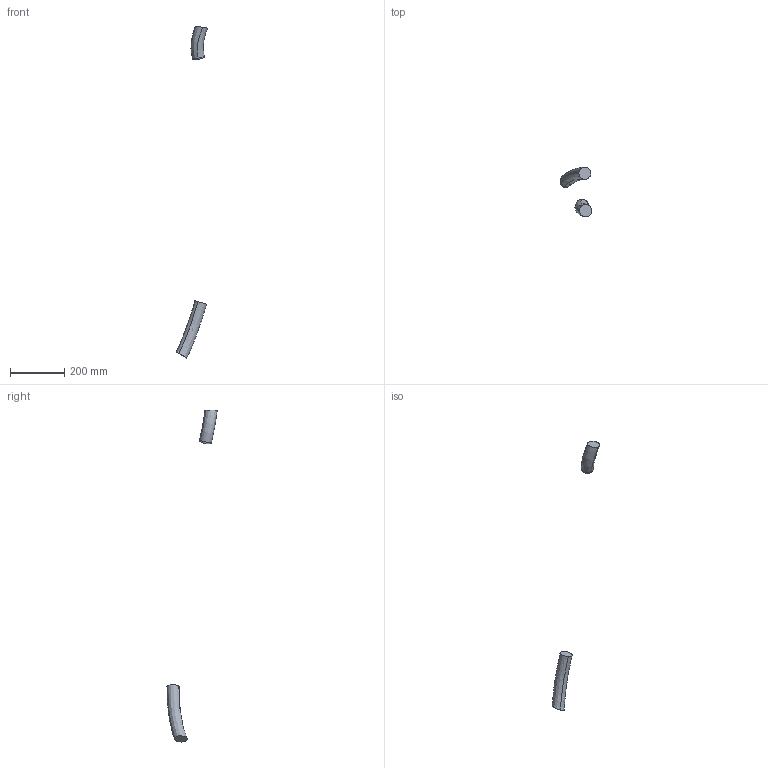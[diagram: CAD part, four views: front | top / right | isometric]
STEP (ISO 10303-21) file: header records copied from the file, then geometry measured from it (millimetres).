
FILE_DESCRIPTION (( 'STEP AP214' ), '1' );
FILE_NAME ('IRB6760_All_OC_00_LINK02m_CABLE.step', '2025-09-30T13:07:10', ( '' ), ( '' ), 'SwSTEP 2.0', 'SolidWorks 2024', '' );
FILE_SCHEMA (( 'AUTOMOTIVE_DESIGN' ));
Length unit declared in the file: millimetre
Products named in the file (1): IRB6760_All_OC_00_LINK02m_CABLE
Bounding box: 115.65 x 184.25 x 1219.12 mm (x, y, z)
Volume: 518480.8 mm3; surface area: 52591.2 mm2
Topology: 2 solids, 2 shells, 10 faces, 16 edges, 10 vertices
Faces by surface type: bspline 4, plane 4, cylinder 2
Entity records: 1776 total; most frequent: CARTESIAN_POINT 1583, ORIENTED_EDGE 32, DIRECTION 28, EDGE_CURVE 16, AXIS2_PLACEMENT_3D 13, EDGE_LOOP 10, FACE_OUTER_BOUND 10, VERTEX_POINT 10
